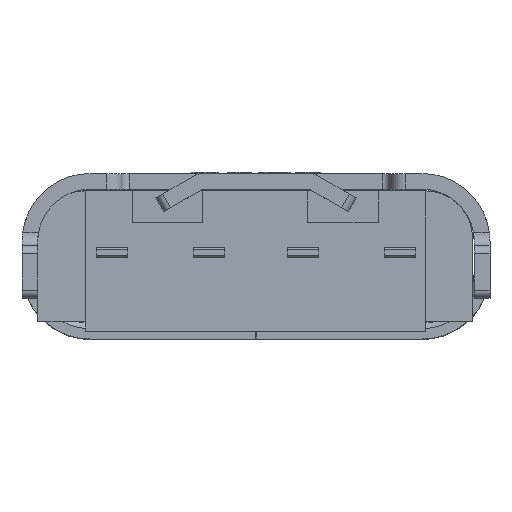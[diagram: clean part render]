
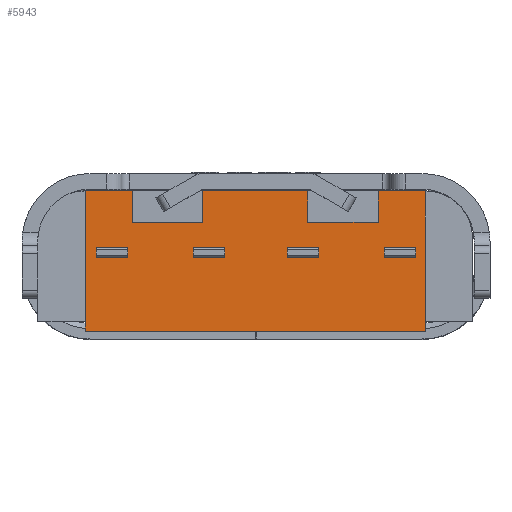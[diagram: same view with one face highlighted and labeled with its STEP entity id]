
A CAD part, top view. The second image highlights one B-rep face of the part: STEP entity #5943.
In plain terms, the highlighted planar face has unit normal (0, 0, 1) as drawn and (0, 0, -1) by its records, which use the part's own axes.
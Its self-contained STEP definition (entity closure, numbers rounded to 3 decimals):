
#64 = VERTEX_POINT ( 'NONE', #4331 ) ;
#359 = VERTEX_POINT ( 'NONE', #14862 ) ;
#506 = DIRECTION ( 'NONE',  ( 0., -1., 0. ) ) ;
#1090 = LINE ( 'NONE', #9934, #17889 ) ;
#1443 = ORIENTED_EDGE ( 'NONE', *, *, #2429, .T. ) ;
#1755 = LINE ( 'NONE', #10962, #1925 ) ;
#1891 = EDGE_CURVE ( 'NONE', #64, #16008, #17855, .T. ) ;
#1925 = VECTOR ( 'NONE', #18033, 1000. ) ;
#2227 = EDGE_CURVE ( 'NONE', #20961, #359, #3549, .T. ) ;
#2429 = EDGE_CURVE ( 'NONE', #4295, #19600, #11444, .T. ) ;
#2741 = CARTESIAN_POINT ( 'NONE',  ( -2.661, -0.833, 0.33 ) ) ;
#3454 = CARTESIAN_POINT ( 'NONE',  ( -1.761, 1.067, 0.33 ) ) ;
#3549 = LINE ( 'NONE', #21544, #4845 ) ;
#3760 = VECTOR ( 'NONE', #506, 1000. ) ;
#3802 = CARTESIAN_POINT ( 'NONE',  ( 2.939, 1.667, 0.33 ) ) ;
#4204 = CARTESIAN_POINT ( 'NONE',  ( 3.839, -0.833, 0.33 ) ) ;
#4288 = AXIS2_PLACEMENT_3D ( 'NONE', #13877, #20969, #5050 ) ;
#4295 = VERTEX_POINT ( 'NONE', #19975 ) ;
#4331 = CARTESIAN_POINT ( 'NONE',  ( 2.939, 1.667, 0.33 ) ) ;
#4419 = CARTESIAN_POINT ( 'NONE',  ( 1.589, 1.067, 0.33 ) ) ;
#4819 = VERTEX_POINT ( 'NONE', #20322 ) ;
#4845 = VECTOR ( 'NONE', #21086, 1000. ) ;
#4896 = EDGE_CURVE ( 'NONE', #19600, #4819, #9636, .T. ) ;
#5050 = DIRECTION ( 'NONE',  ( 1., 0., 0. ) ) ;
#5097 = ORIENTED_EDGE ( 'NONE', *, *, #20664, .T. ) ;
#5309 = DIRECTION ( 'NONE',  ( 1., 0., 0. ) ) ;
#5527 = CARTESIAN_POINT ( 'NONE',  ( 3.839, 1.667, 0.33 ) ) ;
#5587 = CARTESIAN_POINT ( 'NONE',  ( -2.661, -0.833, 0.33 ) ) ;
#5718 = DIRECTION ( 'NONE',  ( 0., -1., 0. ) ) ;
#5863 = LINE ( 'NONE', #18182, #8975 ) ;
#5943 = ADVANCED_FACE ( 'NONE', ( #8415 ), #6793, .F. ) ;
#5972 = VERTEX_POINT ( 'NONE', #21532 ) ;
#6793 = PLANE ( 'NONE',  #4288 ) ;
#6803 = DIRECTION ( 'NONE',  ( 1., 0., 0. ) ) ;
#7011 = ORIENTED_EDGE ( 'NONE', *, *, #17299, .T. ) ;
#7075 = ORIENTED_EDGE ( 'NONE', *, *, #21800, .T. ) ;
#7107 = VECTOR ( 'NONE', #17365, 1000. ) ;
#7362 = LINE ( 'NONE', #21536, #7487 ) ;
#7451 = ORIENTED_EDGE ( 'NONE', *, *, #1891, .T. ) ;
#7487 = VECTOR ( 'NONE', #8996, 1000. ) ;
#7943 = ORIENTED_EDGE ( 'NONE', *, *, #4896, .T. ) ;
#8415 = FACE_OUTER_BOUND ( 'NONE', #13048, .T. ) ;
#8449 = VERTEX_POINT ( 'NONE', #19869 ) ;
#8451 = LINE ( 'NONE', #3454, #13477 ) ;
#8807 = DIRECTION ( 'NONE',  ( 1., 0., 0. ) ) ;
#8937 = ORIENTED_EDGE ( 'NONE', *, *, #21362, .T. ) ;
#8975 = VECTOR ( 'NONE', #18307, 1000. ) ;
#8996 = DIRECTION ( 'NONE',  ( 0., 1., 0. ) ) ;
#9206 = LINE ( 'NONE', #19350, #12032 ) ;
#9449 = VECTOR ( 'NONE', #18582, 1000. ) ;
#9599 = ORIENTED_EDGE ( 'NONE', *, *, #22291, .T. ) ;
#9636 = LINE ( 'NONE', #17060, #9449 ) ;
#9683 = CARTESIAN_POINT ( 'NONE',  ( 1.589, 1.667, 0.33 ) ) ;
#9934 = CARTESIAN_POINT ( 'NONE',  ( -0.411, 1.667, 0.33 ) ) ;
#10170 = CARTESIAN_POINT ( 'NONE',  ( 2.939, 1.067, 0.33 ) ) ;
#10392 = LINE ( 'NONE', #10170, #7107 ) ;
#10401 = ORIENTED_EDGE ( 'NONE', *, *, #10445, .T. ) ;
#10445 = EDGE_CURVE ( 'NONE', #16130, #12935, #5863, .T. ) ;
#10834 = CARTESIAN_POINT ( 'NONE',  ( -2.661, -1.013, 0.33 ) ) ;
#10962 = CARTESIAN_POINT ( 'NONE',  ( -1.761, 1.667, 0.33 ) ) ;
#11444 = LINE ( 'NONE', #9683, #3760 ) ;
#11998 = VECTOR ( 'NONE', #16271, 1000. ) ;
#12032 = VECTOR ( 'NONE', #17374, 1000. ) ;
#12141 = ORIENTED_EDGE ( 'NONE', *, *, #17883, .T. ) ;
#12300 = CARTESIAN_POINT ( 'NONE',  ( -1.761, 1.067, 0.33 ) ) ;
#12821 = DIRECTION ( 'NONE',  ( 0., -1., 0. ) ) ;
#12827 = LINE ( 'NONE', #4204, #15700 ) ;
#12829 = ORIENTED_EDGE ( 'NONE', *, *, #17407, .F. ) ;
#12935 = VERTEX_POINT ( 'NONE', #10834 ) ;
#13048 = EDGE_LOOP ( 'NONE', ( #15499, #12141, #8937, #9599, #19074, #1443, #7943, #7011, #7451, #12829, #5097, #10401, #13898, #7075 ) ) ;
#13477 = VECTOR ( 'NONE', #8807, 1000. ) ;
#13758 = VECTOR ( 'NONE', #5309, 1000. ) ;
#13877 = CARTESIAN_POINT ( 'NONE',  ( -2.661, 1.667, 0.33 ) ) ;
#13898 = ORIENTED_EDGE ( 'NONE', *, *, #17874, .F. ) ;
#14365 = CARTESIAN_POINT ( 'NONE',  ( 3.839, -1.013, 0.33 ) ) ;
#14862 = CARTESIAN_POINT ( 'NONE',  ( -1.761, 1.667, 0.33 ) ) ;
#15499 = ORIENTED_EDGE ( 'NONE', *, *, #2227, .T. ) ;
#15700 = VECTOR ( 'NONE', #5718, 1000. ) ;
#16008 = VERTEX_POINT ( 'NONE', #5527 ) ;
#16130 = VERTEX_POINT ( 'NONE', #14365 ) ;
#16271 = DIRECTION ( 'NONE',  ( 0., 1., 0. ) ) ;
#17060 = CARTESIAN_POINT ( 'NONE',  ( 1.589, 1.067, 0.33 ) ) ;
#17299 = EDGE_CURVE ( 'NONE', #4819, #64, #10392, .T. ) ;
#17365 = DIRECTION ( 'NONE',  ( 0., 1., 0. ) ) ;
#17374 = DIRECTION ( 'NONE',  ( 0., 1., 0. ) ) ;
#17407 = EDGE_CURVE ( 'NONE', #8449, #16008, #7362, .T. ) ;
#17855 = LINE ( 'NONE', #3802, #13758 ) ;
#17874 = EDGE_CURVE ( 'NONE', #22730, #12935, #19776, .T. ) ;
#17883 = EDGE_CURVE ( 'NONE', #359, #21287, #1755, .T. ) ;
#17889 = VECTOR ( 'NONE', #6803, 1000. ) ;
#17933 = VERTEX_POINT ( 'NONE', #18257 ) ;
#18033 = DIRECTION ( 'NONE',  ( 0., -1., 0. ) ) ;
#18126 = LINE ( 'NONE', #19872, #11998 ) ;
#18182 = CARTESIAN_POINT ( 'NONE',  ( 3.839, -1.013, 0.33 ) ) ;
#18257 = CARTESIAN_POINT ( 'NONE',  ( -0.411, 1.667, 0.33 ) ) ;
#18307 = DIRECTION ( 'NONE',  ( -1., 0., 0. ) ) ;
#18582 = DIRECTION ( 'NONE',  ( 1., 0., 0. ) ) ;
#19074 = ORIENTED_EDGE ( 'NONE', *, *, #19953, .T. ) ;
#19350 = CARTESIAN_POINT ( 'NONE',  ( -2.661, -0.833, 0.33 ) ) ;
#19600 = VERTEX_POINT ( 'NONE', #4419 ) ;
#19776 = LINE ( 'NONE', #5587, #21970 ) ;
#19869 = CARTESIAN_POINT ( 'NONE',  ( 3.839, -0.833, 0.33 ) ) ;
#19872 = CARTESIAN_POINT ( 'NONE',  ( -0.411, 1.067, 0.33 ) ) ;
#19953 = EDGE_CURVE ( 'NONE', #17933, #4295, #1090, .T. ) ;
#19975 = CARTESIAN_POINT ( 'NONE',  ( 1.589, 1.667, 0.33 ) ) ;
#20322 = CARTESIAN_POINT ( 'NONE',  ( 2.939, 1.067, 0.33 ) ) ;
#20664 = EDGE_CURVE ( 'NONE', #8449, #16130, #12827, .T. ) ;
#20961 = VERTEX_POINT ( 'NONE', #21141 ) ;
#20969 = DIRECTION ( 'NONE',  ( 0., 0., 1. ) ) ;
#21086 = DIRECTION ( 'NONE',  ( 1., 0., 0. ) ) ;
#21141 = CARTESIAN_POINT ( 'NONE',  ( -2.661, 1.667, 0.33 ) ) ;
#21287 = VERTEX_POINT ( 'NONE', #12300 ) ;
#21362 = EDGE_CURVE ( 'NONE', #21287, #5972, #8451, .T. ) ;
#21532 = CARTESIAN_POINT ( 'NONE',  ( -0.411, 1.067, 0.33 ) ) ;
#21536 = CARTESIAN_POINT ( 'NONE',  ( 3.839, -0.833, 0.33 ) ) ;
#21544 = CARTESIAN_POINT ( 'NONE',  ( -2.661, 1.667, 0.33 ) ) ;
#21800 = EDGE_CURVE ( 'NONE', #22730, #20961, #9206, .T. ) ;
#21970 = VECTOR ( 'NONE', #12821, 1000. ) ;
#22291 = EDGE_CURVE ( 'NONE', #5972, #17933, #18126, .T. ) ;
#22730 = VERTEX_POINT ( 'NONE', #2741 ) ;
